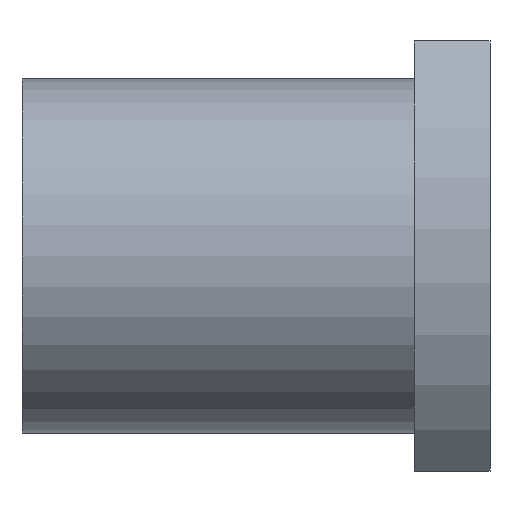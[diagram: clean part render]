
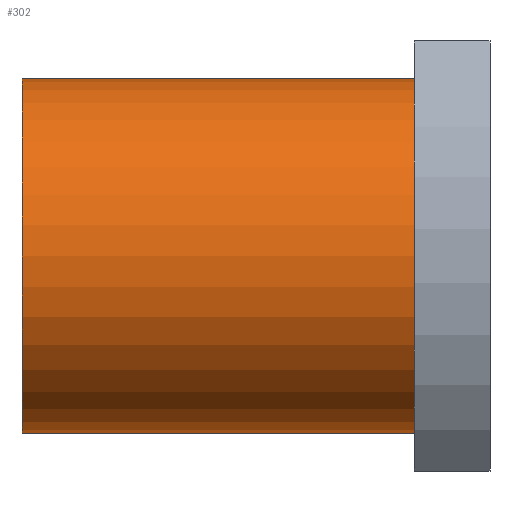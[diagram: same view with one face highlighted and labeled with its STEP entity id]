
A CAD part, front view. The second image highlights one B-rep face of the part: STEP entity #302.
In plain terms, the highlighted cylindrical face has radius 14 mm (diameter 28 mm), a full revolution.
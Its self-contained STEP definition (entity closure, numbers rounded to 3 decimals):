
#37=CYLINDRICAL_SURFACE('',#346,14.);
#60=ORIENTED_EDGE('',*,*,#124,.T.);
#61=ORIENTED_EDGE('',*,*,#125,.T.);
#124=EDGE_CURVE('',#156,#156,#182,.T.);
#125=EDGE_CURVE('',#157,#157,#183,.F.);
#156=VERTEX_POINT('',#508);
#157=VERTEX_POINT('',#510);
#182=CIRCLE('',#347,14.);
#183=CIRCLE('',#348,14.);
#205=EDGE_LOOP('',(#60));
#206=EDGE_LOOP('',(#61));
#251=FACE_BOUND('',#205,.T.);
#252=FACE_BOUND('',#206,.T.);
#302=ADVANCED_FACE('',(#251,#252),#37,.T.);
#346=AXIS2_PLACEMENT_3D('',#506,#410,#411);
#347=AXIS2_PLACEMENT_3D('',#507,#412,#413);
#348=AXIS2_PLACEMENT_3D('',#509,#414,#415);
#410=DIRECTION('',(1.,0.,0.));
#411=DIRECTION('',(0.,0.,-1.));
#412=DIRECTION('',(1.,0.,0.));
#413=DIRECTION('',(0.,0.,-1.));
#414=DIRECTION('',(1.,0.,0.));
#415=DIRECTION('',(0.,0.,-1.));
#506=CARTESIAN_POINT('',(-18.5,0.,0.));
#507=CARTESIAN_POINT('',(-18.5,0.,0.));
#508=CARTESIAN_POINT('',(-18.5,0.,-14.));
#509=CARTESIAN_POINT('',(12.5,0.,0.));
#510=CARTESIAN_POINT('',(12.5,0.,-14.));
